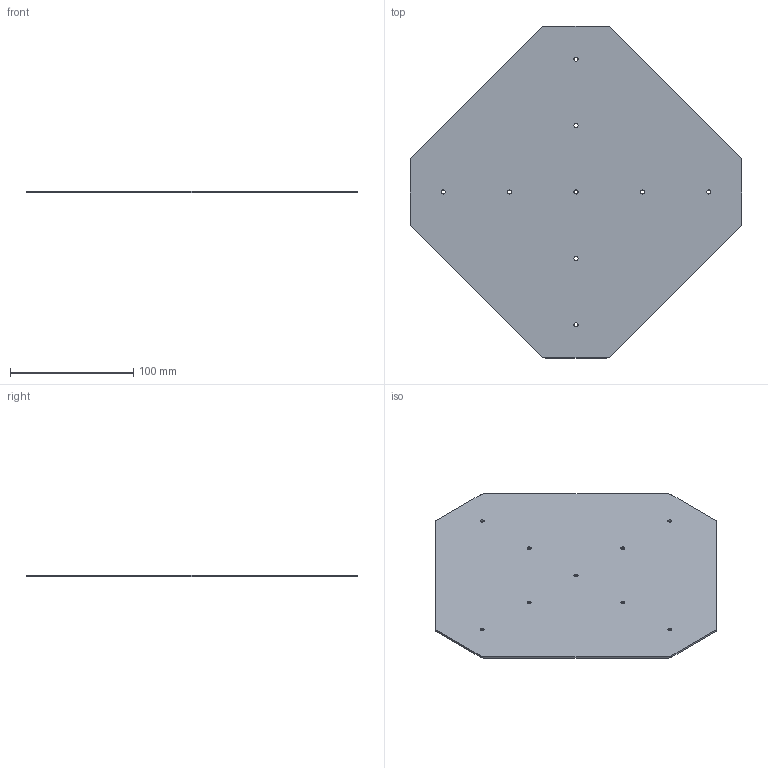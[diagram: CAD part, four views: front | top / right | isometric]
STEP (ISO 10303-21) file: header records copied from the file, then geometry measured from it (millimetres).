
FILE_DESCRIPTION (( 'STEP AP203' ), '1' );
FILE_NAME ('FDPGK-S_2-CROSS.step', '2019-09-11T19:50:35', ( 'ydmin' ), ( '' ), 'SwSTEP 2.0', 'SolidWorks 2017', '' );
FILE_SCHEMA (( 'CONFIG_CONTROL_DESIGN' ));
Length unit declared in the file: inch
Products named in the file (1): FDPGK-S_2-CROSS
Bounding box: 269.88 x 269.88 x 1.59 mm (x, y, z)
Volume: 78491.9 mm3; surface area: 100344.8 mm2
Topology: 1 solids, 1 shells, 36 faces, 102 edges, 68 vertices
Faces by surface type: cylinder 26, plane 10
Entity records: 1313 total; most frequent: DIRECTION 228, CARTESIAN_POINT 207, ORIENTED_EDGE 204, EDGE_CURVE 102, AXIS2_PLACEMENT_3D 89, VERTEX_POINT 68, EDGE_LOOP 54, CIRCLE 52
